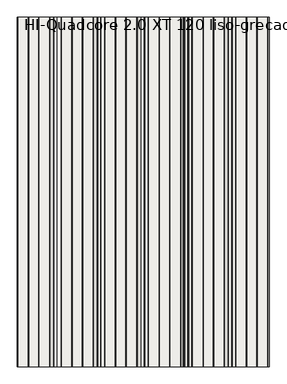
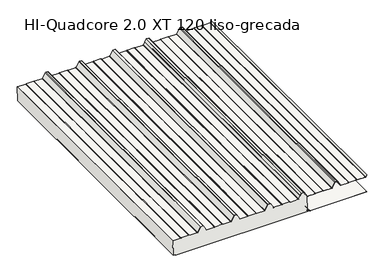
"""IFC4 building model written with IfcOpenShell, lengths in millimetres: slab geometry, HI_QuadCore2.0XT-XT DUAL : HI-Quadcore 2.0 XT 120 liso-grecada."""

from ifc_helpers import new_model, si_unit, point, frame, frame_2d, origin, place, context, project, spatial, polyline, circle_curve, trimmed, segment, composite_curve, outline, extrude, source, transform, mapped, element, save
from ifc_brep_helpers import plane_surface, cylinder_surface, revolved_surface, advanced_brep


def hi_quadcore_2_0_xt_120_liso_grecada_a0ecb60e(model_context):
    return source(origin(), model_context, "Body", "SolidModel", [
        advanced_brep(
        [(2181.036551, 0.0, 121.2667387), (2166.0442453, 0.0, 147.9197266), (2166.033201, 0.0, 145.939301), (2165.1031555, 0.0, 144.3282068), (2164.4103128, 0.0, 144.7281681), (2165.3403583, 0.0, 146.3392623), (2165.3469849, 0.0, 147.5275176), (2159.4120152, 0.0, 158.0785747), (2157.4945491, 0.0, 159.2), (2142.1184247, 0.0, 159.2), (2140.1940602, 0.0, 158.0662182), (2119.7447946, 0.0, 121.1583504), (2116.4208923, 0.0, 119.2), (2057.5510443, 0.0, 119.2), (2055.671532, 0.0, 119.6973596), (2053.5370944, 0.0, 120.912055), (2052.4489557, 0.0, 121.2), (1997.5510443, 0.0, 121.2), (1996.4629056, 0.0, 120.912055), (1994.328468, 0.0, 119.6973596), (1992.4489557, 0.0, 119.2), (1934.2545425, 0.0, 119.2), (1930.9425554, 0.0, 121.1370073), (1910.1629237, 0.0, 158.0785747), (1908.2454575, 0.0, 159.2), (1891.7545425, 0.0, 159.2), (1889.8370763, 0.0, 158.0785747), (1869.0574446, 0.0, 121.1370073), (1865.7454575, 0.0, 119.2), (1807.5510443, 0.0, 119.2), (1805.671532, 0.0, 119.6973596), (1803.5370944, 0.0, 120.912055), (1802.4489557, 0.0, 121.2), (1747.5510443, 0.0, 121.2), (1746.4629056, 0.0, 120.912055), (1744.328468, 0.0, 119.6973596), (1742.4489557, 0.0, 119.2), (1684.2545425, 0.0, 119.2), (1680.9425554, 0.0, 121.1370073), (1660.1629237, 0.0, 158.0785747), (1658.2454575, 0.0, 159.2), (1641.7545425, 0.0, 159.2), (1639.8370763, 0.0, 158.0785747), (1619.0574446, 0.0, 121.1370073), (1615.7454575, 0.0, 119.2), (1557.5510443, 0.0, 119.2), (1555.671532, 0.0, 119.6973596), (1553.5370944, 0.0, 120.912055), (1552.4489557, 0.0, 121.2), (1497.5510443, 0.0, 121.2), (1496.4629056, 0.0, 120.912055), (1494.328468, 0.0, 119.6973596), (1492.4489557, 0.0, 119.2), (1434.2545425, 0.0, 119.2), (1430.9425554, 0.0, 121.1370073), (1410.1629237, 0.0, 158.0785747), (1408.2454575, 0.0, 159.2), (1391.7545425, 0.0, 159.2), (1389.8370763, 0.0, 158.0785747), (1369.0574446, 0.0, 121.1370073), (1365.7454575, 0.0, 119.2), (1307.5510443, 0.0, 119.2), (1305.671532, 0.0, 119.6973596), (1303.5370944, 0.0, 120.912055), (1302.4489557, 0.0, 121.2), (1247.5510443, 0.0, 121.2), (1246.4629056, 0.0, 120.912055), (1244.328468, 0.0, 119.6973596), (1242.4489557, 0.0, 119.2), (1184.6545425, 0.0, 119.2), (1181.3052775, 0.0, 121.2048889), (1184.4622222, 0.0, 7.0308356), (1185.8457731, 0.0, 7.2414508), (1185.8456418, 0.0, 11.9758652), (1186.4313891, 0.0, 13.390095), (1188.5375329, 0.0, 15.4963556), (1189.1032183, 0.0, 14.9306702), (1186.9970902, 0.0, 12.8244253), (1186.6456418, 0.0, 11.9758874), (1186.6457428, 0.0, 8.3337062), (1187.7581044, 0.0, 7.1369439), (1198.1768616, 0.0, 6.3740035), (1200.7032632, 0.0, 3.5874804), (1200.7033079, 0.0, 1.9756233), (1201.9033408, 0.0, 0.7756565), (2197.9136557, 0.0, 0.8032689), (2199.1046782, 0.0, 2.0032686), (2199.104653, 0.0, 2.9118044), (2197.9581323, 0.0, 4.1105786), (2186.1323972, 0.0, 5.0061949), (2183.5438482, 0.0, 7.7981217), (2183.5455151, 0.0, 11.7461321), (2183.1910778, 0.0, 12.5938038), (2181.7779905, 0.0, 14.013532), (2182.3436759, 0.0, 14.5792175), (2183.757913, 0.0, 13.1650588), (1181.3052775, 2000.0, 121.2048889), (1184.6545425, 2000.0, 119.2), (1242.4489557, 2000.0, 119.2), (1244.328468, 2000.0, 119.6973596), (1246.4629056, 2000.0, 120.912055), (1247.5510443, 2000.0, 121.2), (1302.4489557, 2000.0, 121.2), (1303.5370944, 2000.0, 120.912055), (1305.671532, 2000.0, 119.6973596), (1307.5510443, 2000.0, 119.2), (1365.7454575, 2000.0, 119.2), (1369.0574446, 2000.0, 121.1370073), (1389.8370763, 2000.0, 158.0785747), (1391.7545425, 2000.0, 159.2), (1408.2454575, 2000.0, 159.2), (1410.1629237, 2000.0, 158.0785747), (1430.9425554, 2000.0, 121.1370073), (1434.2545425, 2000.0, 119.2), (1492.4489557, 2000.0, 119.2), (1494.328468, 2000.0, 119.6973596), (1496.4629056, 2000.0, 120.912055), (1497.5510443, 2000.0, 121.2), (1552.4489557, 2000.0, 121.2), (1553.5370944, 2000.0, 120.912055), (1555.671532, 2000.0, 119.6973596), (1557.5510443, 2000.0, 119.2), (1615.7454575, 2000.0, 119.2), (1619.0574446, 2000.0, 121.1370073), (1639.8370763, 2000.0, 158.0785747), (1641.7545425, 2000.0, 159.2), (1658.2454575, 2000.0, 159.2), (1660.1629237, 2000.0, 158.0785747), (1680.9425554, 2000.0, 121.1370073), (1684.2545425, 2000.0, 119.2), (1742.4489557, 2000.0, 119.2), (1744.328468, 2000.0, 119.6973596), (1746.4629056, 2000.0, 120.912055), (1747.5510443, 2000.0, 121.2), (1802.4489557, 2000.0, 121.2), (1803.5370944, 2000.0, 120.912055), (1805.671532, 2000.0, 119.6973596), (1807.5510443, 2000.0, 119.2), (1865.7454575, 2000.0, 119.2), (1869.0574446, 2000.0, 121.1370073), (1889.8370763, 2000.0, 158.0785747), (1891.7545425, 2000.0, 159.2), (1908.2454575, 2000.0, 159.2), (1910.1629237, 2000.0, 158.0785747), (1930.9425554, 2000.0, 121.1370073), (1934.2545425, 2000.0, 119.2), (1992.4489557, 2000.0, 119.2), (1994.328468, 2000.0, 119.6973596), (1996.4629056, 2000.0, 120.912055), (1997.5510443, 2000.0, 121.2), (2052.4489557, 2000.0, 121.2), (2053.5370944, 2000.0, 120.912055), (2055.671532, 2000.0, 119.6973596), (2057.5510443, 2000.0, 119.2), (2116.4208923, 2000.0, 119.2), (2119.7447946, 2000.0, 121.1583504), (2140.1940602, 2000.0, 158.0662182), (2142.1184247, 2000.0, 159.2), (2157.4945491, 2000.0, 159.2), (2159.4120152, 2000.0, 158.0785747), (2165.3469849, 2000.0, 147.5275176), (2165.3403583, 2000.0, 146.3392623), (2164.4103128, 2000.0, 144.7281681), (2165.1031555, 2000.0, 144.3282068), (2166.033201, 2000.0, 145.939301), (2166.0442453, 2000.0, 147.9197266), (2181.036551, 2000.0, 121.2667387), (2183.757913, 2000.0, 13.1650588), (2182.3436759, 2000.0, 14.5792175), (2181.7779905, 2000.0, 14.013532), (2183.1910778, 2000.0, 12.5938038), (2183.5455151, 2000.0, 11.7461321), (2183.5438482, 2000.0, 7.7981217), (2186.1323972, 2000.0, 5.0061949), (2197.9581323, 2000.0, 4.1105786), (2199.104653, 2000.0, 2.9118044), (2199.1046782, 2000.0, 2.0032686), (2197.9136557, 2000.0, 0.8032689), (1201.9033408, 2000.0, 0.7756565), (1200.7033079, 2000.0, 1.9756233), (1200.7032632, 2000.0, 3.5874804), (1198.1768616, 2000.0, 6.3740035), (1187.7581044, 2000.0, 7.1369439), (1186.6457428, 2000.0, 8.3337062), (1186.6456418, 2000.0, 11.9758874), (1186.9970902, 2000.0, 12.8244253), (1189.1032183, 2000.0, 14.9306702), (1188.5375329, 2000.0, 15.4963556), (1186.4313891, 2000.0, 13.390095), (1185.8456418, 2000.0, 11.9758652), (1185.8457731, 2000.0, 7.2414508), (1184.4622222, 2000.0, 7.0308356)],
        [
            (0, 1),
            (1, 2, circle_curve(frame((2164.3010942, 0.0, 146.9392041), z_axis=(0.0, 1.0, 0.0), x_axis=(1.0, 0.0, 0.0)), 2.0)),
            (2, 3),
            (3, 4),
            (4, 5),
            (5, 6, circle_curve(frame((2164.3010942, 0.0, 146.9392041), z_axis=(0.0, -1.0, 0.0), x_axis=(1.0, 0.0, 0.0)), 1.2)),
            (6, 7),
            (7, 8, circle_curve(frame((2157.4945491, 0.0, 157.0), z_axis=(0.0, -1.0, 0.0), x_axis=(1.0, 0.0, 0.0)), 2.2)),
            (8, 9),
            (9, 10, circle_curve(frame((2142.1184247, 0.0, 157.0), z_axis=(0.0, -1.0, 0.0), x_axis=(1.0, 0.0, 0.0)), 2.2)),
            (10, 11),
            (11, 12, circle_curve(frame((2116.4208923, 0.0, 123.0), z_axis=(0.0, 1.0, 0.0), x_axis=(1.0, 0.0, 0.0)), 3.8)),
            (12, 13),
            (13, 14, circle_curve(frame((2057.5510443, 0.0, 123.0), z_axis=(0.0, 1.0, 0.0), x_axis=(1.0, 0.0, 0.0)), 3.8)),
            (14, 15),
            (15, 16, circle_curve(frame((2052.4489557, 0.0, 119.0), z_axis=(0.0, -1.0, 0.0), x_axis=(1.0, 0.0, 0.0)), 2.2)),
            (16, 17),
            (17, 18, circle_curve(frame((1997.5510443, 0.0, 119.0), z_axis=(0.0, -1.0, 0.0), x_axis=(1.0, 0.0, 0.0)), 2.2)),
            (18, 19),
            (19, 20, circle_curve(frame((1992.4489557, 0.0, 123.0), z_axis=(0.0, 1.0, 0.0), x_axis=(1.0, 0.0, 0.0)), 3.8)),
            (20, 21),
            (21, 22, circle_curve(frame((1934.2545425, 0.0, 123.0), z_axis=(0.0, 1.0, 0.0), x_axis=(1.0, 0.0, 0.0)), 3.8)),
            (22, 23),
            (23, 24, circle_curve(frame((1908.2454575, 0.0, 157.0), z_axis=(0.0, -1.0, 0.0), x_axis=(1.0, 0.0, 0.0)), 2.2)),
            (24, 25),
            (25, 26, circle_curve(frame((1891.7545425, 0.0, 157.0), z_axis=(0.0, -1.0, 0.0), x_axis=(1.0, 0.0, 0.0)), 2.2)),
            (26, 27),
            (27, 28, circle_curve(frame((1865.7454575, 0.0, 123.0), z_axis=(0.0, 1.0, 0.0), x_axis=(1.0, 0.0, 0.0)), 3.8)),
            (28, 29),
            (29, 30, circle_curve(frame((1807.5510443, 0.0, 123.0), z_axis=(0.0, 1.0, 0.0), x_axis=(1.0, 0.0, 0.0)), 3.8)),
            (30, 31),
            (31, 32, circle_curve(frame((1802.4489557, 0.0, 119.0), z_axis=(0.0, -1.0, 0.0), x_axis=(1.0, 0.0, 0.0)), 2.2)),
            (32, 33),
            (33, 34, circle_curve(frame((1747.5510443, 0.0, 119.0), z_axis=(0.0, -1.0, 0.0), x_axis=(1.0, 0.0, 0.0)), 2.2)),
            (34, 35),
            (35, 36, circle_curve(frame((1742.4489557, 0.0, 123.0), z_axis=(0.0, 1.0, 0.0), x_axis=(1.0, 0.0, 0.0)), 3.8)),
            (36, 37),
            (37, 38, circle_curve(frame((1684.2545425, 0.0, 123.0), z_axis=(0.0, 1.0, 0.0), x_axis=(1.0, 0.0, 0.0)), 3.8)),
            (38, 39),
            (39, 40, circle_curve(frame((1658.2454575, 0.0, 157.0), z_axis=(0.0, -1.0, 0.0), x_axis=(1.0, 0.0, 0.0)), 2.2)),
            (40, 41),
            (41, 42, circle_curve(frame((1641.7545425, 0.0, 157.0), z_axis=(0.0, -1.0, 0.0), x_axis=(1.0, 0.0, 0.0)), 2.2)),
            (42, 43),
            (43, 44, circle_curve(frame((1615.7454575, 0.0, 123.0), z_axis=(0.0, 1.0, 0.0), x_axis=(1.0, 0.0, 0.0)), 3.8)),
            (44, 45),
            (45, 46, circle_curve(frame((1557.5510443, 0.0, 123.0), z_axis=(0.0, 1.0, 0.0), x_axis=(1.0, 0.0, 0.0)), 3.8)),
            (46, 47),
            (47, 48, circle_curve(frame((1552.4489557, 0.0, 119.0), z_axis=(0.0, -1.0, 0.0), x_axis=(1.0, 0.0, 0.0)), 2.2)),
            (48, 49),
            (49, 50, circle_curve(frame((1497.5510443, 0.0, 119.0), z_axis=(0.0, -1.0, 0.0), x_axis=(1.0, 0.0, 0.0)), 2.2)),
            (50, 51),
            (51, 52, circle_curve(frame((1492.4489557, 0.0, 123.0), z_axis=(0.0, 1.0, 0.0), x_axis=(1.0, 0.0, 0.0)), 3.8)),
            (52, 53),
            (53, 54, circle_curve(frame((1434.2545425, 0.0, 123.0), z_axis=(0.0, 1.0, 0.0), x_axis=(1.0, 0.0, 0.0)), 3.8)),
            (54, 55),
            (55, 56, circle_curve(frame((1408.2454575, 0.0, 157.0), z_axis=(0.0, -1.0, 0.0), x_axis=(1.0, 0.0, 0.0)), 2.2)),
            (56, 57),
            (57, 58, circle_curve(frame((1391.7545425, 0.0, 157.0), z_axis=(0.0, -1.0, 0.0), x_axis=(1.0, 0.0, 0.0)), 2.2)),
            (58, 59),
            (59, 60, circle_curve(frame((1365.7454575, 0.0, 123.0), z_axis=(0.0, 1.0, 0.0), x_axis=(1.0, 0.0, 0.0)), 3.8)),
            (60, 61),
            (61, 62, circle_curve(frame((1307.5510443, 0.0, 123.0), z_axis=(0.0, 1.0, 0.0), x_axis=(1.0, 0.0, 0.0)), 3.8)),
            (62, 63),
            (63, 64, circle_curve(frame((1302.4489557, 0.0, 119.0), z_axis=(0.0, -1.0, 0.0), x_axis=(1.0, 0.0, 0.0)), 2.2)),
            (64, 65),
            (65, 66, circle_curve(frame((1247.5510443, 0.0, 119.0), z_axis=(0.0, -1.0, 0.0), x_axis=(1.0, 0.0, 0.0)), 2.2)),
            (66, 67),
            (67, 68, circle_curve(frame((1242.4489557, 0.0, 123.0), z_axis=(0.0, 1.0, 0.0), x_axis=(1.0, 0.0, 0.0)), 3.8)),
            (68, 69),
            (69, 70, circle_curve(frame((1184.6545425, 0.0, 123.0), z_axis=(0.0, 1.0, 0.0), x_axis=(1.0, 0.0, 0.0)), 3.8)),
            (70, 71),
            (71, 72),
            (72, 73),
            (73, 74, circle_curve(frame((1187.8456418, 0.0, 11.9759207), z_axis=(0.0, 1.0, 0.0), x_axis=(1.0, 0.0, 0.0)), 2.0)),
            (74, 75),
            (75, 76),
            (76, 77),
            (77, 78, circle_curve(frame((1187.8456418, 0.0, 11.9759207), z_axis=(0.0, -1.0, 0.0), x_axis=(1.0, 0.0, 0.0)), 1.2)),
            (78, 79),
            (79, 80, circle_curve(frame((1187.8457428, 0.0, 8.3337394), z_axis=(0.0, -1.0, 0.0), x_axis=(1.0, 0.0, 0.0)), 1.2)),
            (80, 81),
            (81, 82, circle_curve(frame((1197.9032632, 0.0, 3.5874027), z_axis=(0.0, 1.0, 0.0), x_axis=(1.0, 0.0, 0.0)), 2.8)),
            (82, 83),
            (83, 84, circle_curve(frame((1201.9033076, 0.0, 1.9756562), z_axis=(0.0, -1.0, 0.0), x_axis=(1.0, 0.0, 0.0)), 1.1999997)),
            (84, 85),
            (85, 86, circle_curve(frame((2197.9046782, 0.0, 2.0032353), z_axis=(0.0, -1.0, 0.0), x_axis=(1.0, 0.0, 0.0)), 1.2)),
            (86, 87),
            (87, 88, circle_curve(frame((2197.9046533, 0.0, 2.9117711), z_axis=(0.0, -1.0, 0.0), x_axis=(1.0, 0.0, 0.0)), 1.1999997)),
            (88, 89),
            (89, 90, circle_curve(frame((2186.3438482, 0.0, 7.7981993), z_axis=(0.0, 1.0, 0.0), x_axis=(1.0, 0.0, 0.0)), 2.8)),
            (90, 91),
            (91, 92, circle_curve(frame((2182.3429645, 0.0, 11.7412455), z_axis=(0.0, -1.0, 0.0), x_axis=(1.0, 0.0, 0.0)), 1.2025605)),
            (92, 93),
            (93, 94),
            (94, 95),
            (95, 0),
            (96, 97, circle_curve(frame((1184.6545425, 2000.0, 123.0), z_axis=(0.0, -1.0, 0.0), x_axis=(1.0, 0.0, 0.0)), 3.8)),
            (97, 98),
            (98, 99, circle_curve(frame((1242.4489557, 2000.0, 123.0), z_axis=(0.0, -1.0, 0.0), x_axis=(1.0, 0.0, 0.0)), 3.8)),
            (99, 100),
            (100, 101, circle_curve(frame((1247.5510443, 2000.0, 119.0), z_axis=(0.0, 1.0, 0.0), x_axis=(1.0, 0.0, 0.0)), 2.2)),
            (101, 102),
            (102, 103, circle_curve(frame((1302.4489557, 2000.0, 119.0), z_axis=(0.0, 1.0, 0.0), x_axis=(1.0, 0.0, 0.0)), 2.2)),
            (103, 104),
            (104, 105, circle_curve(frame((1307.5510443, 2000.0, 123.0), z_axis=(0.0, -1.0, 0.0), x_axis=(1.0, 0.0, 0.0)), 3.8)),
            (105, 106),
            (106, 107, circle_curve(frame((1365.7454575, 2000.0, 123.0), z_axis=(0.0, -1.0, 0.0), x_axis=(1.0, 0.0, 0.0)), 3.8)),
            (107, 108),
            (108, 109, circle_curve(frame((1391.7545425, 2000.0, 157.0), z_axis=(0.0, 1.0, 0.0), x_axis=(1.0, 0.0, 0.0)), 2.2)),
            (109, 110),
            (110, 111, circle_curve(frame((1408.2454575, 2000.0, 157.0), z_axis=(0.0, 1.0, 0.0), x_axis=(1.0, 0.0, 0.0)), 2.2)),
            (111, 112),
            (112, 113, circle_curve(frame((1434.2545425, 2000.0, 123.0), z_axis=(0.0, -1.0, 0.0), x_axis=(1.0, 0.0, 0.0)), 3.8)),
            (113, 114),
            (114, 115, circle_curve(frame((1492.4489557, 2000.0, 123.0), z_axis=(0.0, -1.0, 0.0), x_axis=(1.0, 0.0, 0.0)), 3.8)),
            (115, 116),
            (116, 117, circle_curve(frame((1497.5510443, 2000.0, 119.0), z_axis=(0.0, 1.0, 0.0), x_axis=(1.0, 0.0, 0.0)), 2.2)),
            (117, 118),
            (118, 119, circle_curve(frame((1552.4489557, 2000.0, 119.0), z_axis=(0.0, 1.0, 0.0), x_axis=(1.0, 0.0, 0.0)), 2.2)),
            (119, 120),
            (120, 121, circle_curve(frame((1557.5510443, 2000.0, 123.0), z_axis=(0.0, -1.0, 0.0), x_axis=(1.0, 0.0, 0.0)), 3.8)),
            (121, 122),
            (122, 123, circle_curve(frame((1615.7454575, 2000.0, 123.0), z_axis=(0.0, -1.0, 0.0), x_axis=(1.0, 0.0, 0.0)), 3.8)),
            (123, 124),
            (124, 125, circle_curve(frame((1641.7545425, 2000.0, 157.0), z_axis=(0.0, 1.0, 0.0), x_axis=(1.0, 0.0, 0.0)), 2.2)),
            (125, 126),
            (126, 127, circle_curve(frame((1658.2454575, 2000.0, 157.0), z_axis=(0.0, 1.0, 0.0), x_axis=(1.0, 0.0, 0.0)), 2.2)),
            (127, 128),
            (128, 129, circle_curve(frame((1684.2545425, 2000.0, 123.0), z_axis=(0.0, -1.0, 0.0), x_axis=(1.0, 0.0, 0.0)), 3.8)),
            (129, 130),
            (130, 131, circle_curve(frame((1742.4489557, 2000.0, 123.0), z_axis=(0.0, -1.0, 0.0), x_axis=(1.0, 0.0, 0.0)), 3.8)),
            (131, 132),
            (132, 133, circle_curve(frame((1747.5510443, 2000.0, 119.0), z_axis=(0.0, 1.0, 0.0), x_axis=(1.0, 0.0, 0.0)), 2.2)),
            (133, 134),
            (134, 135, circle_curve(frame((1802.4489557, 2000.0, 119.0), z_axis=(0.0, 1.0, 0.0), x_axis=(1.0, 0.0, 0.0)), 2.2)),
            (135, 136),
            (136, 137, circle_curve(frame((1807.5510443, 2000.0, 123.0), z_axis=(0.0, -1.0, 0.0), x_axis=(1.0, 0.0, 0.0)), 3.8)),
            (137, 138),
            (138, 139, circle_curve(frame((1865.7454575, 2000.0, 123.0), z_axis=(0.0, -1.0, 0.0), x_axis=(1.0, 0.0, 0.0)), 3.8)),
            (139, 140),
            (140, 141, circle_curve(frame((1891.7545425, 2000.0, 157.0), z_axis=(0.0, 1.0, 0.0), x_axis=(1.0, 0.0, 0.0)), 2.2)),
            (141, 142),
            (142, 143, circle_curve(frame((1908.2454575, 2000.0, 157.0), z_axis=(0.0, 1.0, 0.0), x_axis=(1.0, 0.0, 0.0)), 2.2)),
            (143, 144),
            (144, 145, circle_curve(frame((1934.2545425, 2000.0, 123.0), z_axis=(0.0, -1.0, 0.0), x_axis=(1.0, 0.0, 0.0)), 3.8)),
            (145, 146),
            (146, 147, circle_curve(frame((1992.4489557, 2000.0, 123.0), z_axis=(0.0, -1.0, 0.0), x_axis=(1.0, 0.0, 0.0)), 3.8)),
            (147, 148),
            (148, 149, circle_curve(frame((1997.5510443, 2000.0, 119.0), z_axis=(0.0, 1.0, 0.0), x_axis=(1.0, 0.0, 0.0)), 2.2)),
            (149, 150),
            (150, 151, circle_curve(frame((2052.4489557, 2000.0, 119.0), z_axis=(0.0, 1.0, 0.0), x_axis=(1.0, 0.0, 0.0)), 2.2)),
            (151, 152),
            (152, 153, circle_curve(frame((2057.5510443, 2000.0, 123.0), z_axis=(0.0, -1.0, 0.0), x_axis=(1.0, 0.0, 0.0)), 3.8)),
            (153, 154),
            (154, 155, circle_curve(frame((2116.4208923, 2000.0, 123.0), z_axis=(0.0, -1.0, 0.0), x_axis=(1.0, 0.0, 0.0)), 3.8)),
            (155, 156),
            (156, 157, circle_curve(frame((2142.1184247, 2000.0, 157.0), z_axis=(0.0, 1.0, 0.0), x_axis=(1.0, 0.0, 0.0)), 2.2)),
            (157, 158),
            (158, 159, circle_curve(frame((2157.4945491, 2000.0, 157.0), z_axis=(0.0, 1.0, 0.0), x_axis=(1.0, 0.0, 0.0)), 2.2)),
            (159, 160),
            (160, 161, circle_curve(frame((2164.3010942, 2000.0, 146.9392041), z_axis=(0.0, 1.0, 0.0), x_axis=(1.0, 0.0, 0.0)), 1.2)),
            (161, 162),
            (162, 163),
            (163, 164),
            (164, 165, circle_curve(frame((2164.3010942, 2000.0, 146.9392041), z_axis=(0.0, -1.0, 0.0), x_axis=(1.0, 0.0, 0.0)), 2.0)),
            (165, 166),
            (166, 167),
            (167, 168),
            (168, 169),
            (169, 170),
            (170, 171, circle_curve(frame((2182.3429645, 2000.0, 11.7412455), z_axis=(0.0, 1.0, 0.0), x_axis=(1.0, 0.0, 0.0)), 1.2025605)),
            (171, 172),
            (172, 173, circle_curve(frame((2186.3438482, 2000.0, 7.7981993), z_axis=(0.0, -1.0, 0.0), x_axis=(1.0, 0.0, 0.0)), 2.8)),
            (173, 174),
            (174, 175, circle_curve(frame((2197.9046533, 2000.0, 2.9117711), z_axis=(0.0, 1.0, 0.0), x_axis=(1.0, 0.0, 0.0)), 1.1999997)),
            (175, 176),
            (176, 177, circle_curve(frame((2197.9046782, 2000.0, 2.0032353), z_axis=(0.0, 1.0, 0.0), x_axis=(1.0, 0.0, 0.0)), 1.2)),
            (177, 178),
            (178, 179, circle_curve(frame((1201.9033076, 2000.0, 1.9756562), z_axis=(0.0, 1.0, 0.0), x_axis=(1.0, 0.0, 0.0)), 1.1999997)),
            (179, 180),
            (180, 181, circle_curve(frame((1197.9032632, 2000.0, 3.5874027), z_axis=(0.0, -1.0, 0.0), x_axis=(1.0, 0.0, 0.0)), 2.8)),
            (181, 182),
            (182, 183, circle_curve(frame((1187.8457428, 2000.0, 8.3337394), z_axis=(0.0, 1.0, 0.0), x_axis=(1.0, 0.0, 0.0)), 1.2)),
            (183, 184),
            (184, 185, circle_curve(frame((1187.8456418, 2000.0, 11.9759207), z_axis=(0.0, 1.0, 0.0), x_axis=(1.0, 0.0, 0.0)), 1.2)),
            (185, 186),
            (186, 187),
            (187, 188),
            (188, 189, circle_curve(frame((1187.8456418, 2000.0, 11.9759207), z_axis=(0.0, -1.0, 0.0), x_axis=(1.0, 0.0, 0.0)), 2.0)),
            (189, 190),
            (190, 191),
            (191, 96),
            (0, 166),
            (165, 1),
            (164, 2),
            (163, 3),
            (162, 4),
            (161, 5),
            (160, 6),
            (159, 7),
            (158, 8),
            (157, 9),
            (156, 10),
            (155, 11),
            (154, 12),
            (153, 13),
            (152, 14),
            (151, 15),
            (150, 16),
            (149, 17),
            (148, 18),
            (147, 19),
            (146, 20),
            (145, 21),
            (144, 22),
            (143, 23),
            (142, 24),
            (141, 25),
            (140, 26),
            (139, 27),
            (138, 28),
            (137, 29),
            (136, 30),
            (135, 31),
            (134, 32),
            (133, 33),
            (132, 34),
            (131, 35),
            (130, 36),
            (129, 37),
            (128, 38),
            (127, 39),
            (126, 40),
            (125, 41),
            (124, 42),
            (123, 43),
            (122, 44),
            (121, 45),
            (120, 46),
            (119, 47),
            (118, 48),
            (117, 49),
            (116, 50),
            (115, 51),
            (114, 52),
            (113, 53),
            (112, 54),
            (111, 55),
            (110, 56),
            (109, 57),
            (108, 58),
            (107, 59),
            (106, 60),
            (105, 61),
            (104, 62),
            (103, 63),
            (102, 64),
            (101, 65),
            (100, 66),
            (99, 67),
            (98, 68),
            (97, 69),
            (96, 70),
            (191, 71),
            (95, 167),
            (76, 186),
            (185, 77),
            (184, 78),
            (183, 79),
            (182, 80),
            (181, 81),
            (180, 82),
            (179, 83),
            (86, 176),
            (175, 87),
            (174, 88),
            (173, 89),
            (172, 90),
            (171, 91),
            (75, 187),
            (72, 190),
            (189, 73),
            (188, 74),
            (170, 92),
            (169, 93),
            (168, 94),
            (178, 84),
            (177, 85),
        ],
        [
            plane_surface(frame((2181.1187881, 0.0, 118.0), z_axis=(0.0, -1.0, 0.0), x_axis=(1.0, 0.0, 0.0))),
            plane_surface(frame((2181.1187881, 2000.0, 118.0), z_axis=(0.0, 1.0, 0.0), x_axis=(-1.0, 0.0, 0.0))),
            plane_surface(frame((2181.036551, 0.0, 121.2667387), z_axis=(0.8715755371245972, 0.0, 0.4902612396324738), x_axis=(0.0, 1.0, 0.0))),
            revolved_surface(polyline([(2166.3010942, 2000.0, 146.9392041), (2166.3010942, 0.0, 146.9392041)]), (2164.3010942, 2000.0, 146.9392041), (0.0, 1.0, 0.0)),
            plane_surface(frame((2166.033201, 0.0, 145.939301), z_axis=(-0.8660533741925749, 0.0, 0.49995155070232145), x_axis=(0.0, 1.0, 0.0))),
            plane_surface(frame((2165.1031555, 0.0, 144.3282068), z_axis=(0.4999515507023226, 0.0, 0.8660533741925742), x_axis=(0.0, 1.0, 0.0))),
            plane_surface(frame((2164.4103128, 0.0, 144.7281681), z_axis=(0.8660533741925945, 0.0, -0.4999515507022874), x_axis=(0.0, 1.0, 0.0))),
            cylinder_surface(frame((2164.3010942, 2000.0, 146.9392041), z_axis=(0.0, -1.0, 0.0), x_axis=(1.0, 0.0, 0.0)), 1.2),
            plane_surface(frame((2165.3469849, 0.0, 147.5275176), z_axis=(0.8715755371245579, 0.0, 0.4902612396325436), x_axis=(0.0, 1.0, 0.0))),
            cylinder_surface(frame((2157.4945491, 2000.0, 157.0), z_axis=(0.0, -1.0, 0.0), x_axis=(1.0, 0.0, 0.0)), 2.2),
            plane_surface(frame((2157.4945491, 0.0, 159.2), z_axis=(0.0, 0.0, 1.0), x_axis=(0.0, 1.0, 0.0))),
            cylinder_surface(frame((2142.1184247, 2000.0, 157.0), z_axis=(0.0, -1.0, 0.0), x_axis=(1.0, 0.0, 0.0)), 2.2),
            plane_surface(frame((2140.1940602, 0.0, 158.0662182), z_axis=(-0.8747111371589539, 0.0, 0.48464463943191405), x_axis=(0.0, 1.0, 0.0))),
            revolved_surface(polyline([(2120.2208923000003, 2000.0, 123.0), (2120.2208923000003, 0.0, 123.0)]), (2116.4208923, 2000.0, 123.0), (0.0, 1.0, 0.0)),
            plane_surface(frame((2116.4208923, 0.0, 119.2), z_axis=(0.0, 0.0, 1.0), x_axis=(0.0, 1.0, 0.0))),
            revolved_surface(polyline([(2061.3510443, 2000.0, 123.0), (2061.3510443, 0.0, 123.0)]), (2057.5510443, 2000.0, 123.0), (0.0, 1.0, 0.0)),
            plane_surface(frame((2055.671532, 0.0, 119.6973596), z_axis=(0.49460850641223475, 0.0, 0.8691158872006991), x_axis=(0.0, 1.0, 0.0))),
            cylinder_surface(frame((2052.4489557, 2000.0, 119.0), z_axis=(0.0, -1.0, 0.0), x_axis=(1.0, 0.0, 0.0)), 2.2),
            plane_surface(frame((2052.4489557, 0.0, 121.2), z_axis=(0.0, 0.0, 1.0), x_axis=(0.0, 1.0, 0.0))),
            cylinder_surface(frame((1997.5510443, 2000.0, 119.0), z_axis=(0.0, -1.0, 0.0), x_axis=(1.0, 0.0, 0.0)), 2.2),
            plane_surface(frame((1996.4629056, 0.0, 120.912055), z_axis=(-0.49460850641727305, 0.0, 0.8691158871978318), x_axis=(0.0, 1.0, 0.0))),
            revolved_surface(polyline([(1996.2489557, 2000.0, 123.0), (1996.2489557, 0.0, 123.0)]), (1992.4489557, 2000.0, 123.0), (0.0, 1.0, 0.0)),
            plane_surface(frame((1992.4489557, 0.0, 119.2), z_axis=(0.0, 0.0, 1.0), x_axis=(0.0, 1.0, 0.0))),
            revolved_surface(polyline([(1938.0545425, 2000.0, 123.0), (1938.0545425, 0.0, 123.0)]), (1934.2545425, 2000.0, 123.0), (0.0, 1.0, 0.0)),
            plane_surface(frame((1930.9425554, 0.0, 121.1370073), z_axis=(0.8715755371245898, 0.0, 0.4902612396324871), x_axis=(0.0, 1.0, 0.0))),
            cylinder_surface(frame((1908.2454575, 2000.0, 157.0), z_axis=(0.0, -1.0, 0.0), x_axis=(1.0, 0.0, 0.0)), 2.2),
            plane_surface(frame((1908.2454575, 0.0, 159.2), z_axis=(0.0, 0.0, 1.0), x_axis=(0.0, 1.0, 0.0))),
            cylinder_surface(frame((1891.7545425, 2000.0, 157.0), z_axis=(0.0, -1.0, 0.0), x_axis=(1.0, 0.0, 0.0)), 2.2),
            plane_surface(frame((1889.8370763, 0.0, 158.0785747), z_axis=(-0.8715755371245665, 0.0, 0.49026123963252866), x_axis=(0.0, 1.0, 0.0))),
            revolved_surface(polyline([(1869.5454574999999, 2000.0, 123.0), (1869.5454574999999, 0.0, 123.0)]), (1865.7454575, 2000.0, 123.0), (0.0, 1.0, 0.0)),
            plane_surface(frame((1865.7454575, 0.0, 119.2), z_axis=(0.0, 0.0, 1.0), x_axis=(0.0, 1.0, 0.0))),
            revolved_surface(polyline([(1811.3510443, 2000.0, 123.0), (1811.3510443, 0.0, 123.0)]), (1807.5510443, 2000.0, 123.0), (0.0, 1.0, 0.0)),
            plane_surface(frame((1805.671532, 0.0, 119.6973596), z_axis=(0.49460850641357, 0.0, 0.8691158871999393), x_axis=(0.0, 1.0, 0.0))),
            cylinder_surface(frame((1802.4489557, 2000.0, 119.0), z_axis=(0.0, -1.0, 0.0), x_axis=(1.0, 0.0, 0.0)), 2.2),
            plane_surface(frame((1802.4489557, 0.0, 121.2), z_axis=(0.0, 0.0, 1.0), x_axis=(0.0, 1.0, 0.0))),
            cylinder_surface(frame((1747.5510443, 2000.0, 119.0), z_axis=(0.0, -1.0, 0.0), x_axis=(1.0, 0.0, 0.0)), 2.2),
            plane_surface(frame((1746.4629056, 0.0, 120.912055), z_axis=(-0.4946085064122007, 0.0, 0.8691158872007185), x_axis=(0.0, 1.0, 0.0))),
            revolved_surface(polyline([(1746.2489557, 2000.0, 123.0), (1746.2489557, 0.0, 123.0)]), (1742.4489557, 2000.0, 123.0), (0.0, 1.0, 0.0)),
            plane_surface(frame((1742.4489557, 0.0, 119.2), z_axis=(0.0, 0.0, 1.0), x_axis=(0.0, 1.0, 0.0))),
            revolved_surface(polyline([(1688.0545425, 2000.0, 123.0), (1688.0545425, 0.0, 123.0)]), (1684.2545425, 2000.0, 123.0), (0.0, 1.0, 0.0)),
            plane_surface(frame((1680.9425554, 0.0, 121.1370073), z_axis=(0.8715755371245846, 0.0, 0.49026123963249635), x_axis=(0.0, 1.0, 0.0))),
            cylinder_surface(frame((1658.2454575, 2000.0, 157.0), z_axis=(0.0, -1.0, 0.0), x_axis=(1.0, 0.0, 0.0)), 2.2),
            plane_surface(frame((1658.2454575, 0.0, 159.2), z_axis=(0.0, 0.0, 1.0), x_axis=(0.0, 1.0, 0.0))),
            cylinder_surface(frame((1641.7545425, 2000.0, 157.0), z_axis=(0.0, -1.0, 0.0), x_axis=(1.0, 0.0, 0.0)), 2.2),
            plane_surface(frame((1639.8370763, 0.0, 158.0785747), z_axis=(-0.8715755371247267, 0.0, 0.49026123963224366), x_axis=(0.0, 1.0, 0.0))),
            revolved_surface(polyline([(1619.5454574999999, 2000.0, 123.0), (1619.5454574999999, 0.0, 123.0)]), (1615.7454575, 2000.0, 123.0), (0.0, 1.0, 0.0)),
            plane_surface(frame((1615.7454575, 0.0, 119.2), z_axis=(0.0, 0.0, 1.0), x_axis=(0.0, 1.0, 0.0))),
            revolved_surface(polyline([(1561.3510443, 2000.0, 123.0), (1561.3510443, 0.0, 123.0)]), (1557.5510443, 2000.0, 123.0), (0.0, 1.0, 0.0)),
            plane_surface(frame((1555.671532, 0.0, 119.6973596), z_axis=(0.49460850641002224, 0.0, 0.8691158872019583), x_axis=(0.0, 1.0, 0.0))),
            cylinder_surface(frame((1552.4489557, 2000.0, 119.0), z_axis=(0.0, -1.0, 0.0), x_axis=(1.0, 0.0, 0.0)), 2.2),
            plane_surface(frame((1552.4489557, 0.0, 121.2), z_axis=(0.0, 0.0, 1.0), x_axis=(0.0, 1.0, 0.0))),
            cylinder_surface(frame((1497.5510443, 2000.0, 119.0), z_axis=(0.0, -1.0, 0.0), x_axis=(1.0, 0.0, 0.0)), 2.2),
            plane_surface(frame((1496.4629056, 0.0, 120.912055), z_axis=(-0.4946085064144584, 0.0, 0.8691158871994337), x_axis=(0.0, 1.0, 0.0))),
            revolved_surface(polyline([(1496.2489557, 2000.0, 123.0), (1496.2489557, 0.0, 123.0)]), (1492.4489557, 2000.0, 123.0), (0.0, 1.0, 0.0)),
            plane_surface(frame((1492.4489557, 0.0, 119.2), z_axis=(0.0, 0.0, 1.0), x_axis=(0.0, 1.0, 0.0))),
            revolved_surface(polyline([(1438.0545425, 2000.0, 123.0), (1438.0545425, 0.0, 123.0)]), (1434.2545425, 2000.0, 123.0), (0.0, 1.0, 0.0)),
            plane_surface(frame((1430.9425554, 0.0, 121.1370073), z_axis=(0.8715755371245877, 0.0, 0.49026123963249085), x_axis=(0.0, 1.0, 0.0))),
            cylinder_surface(frame((1408.2454575, 2000.0, 157.0), z_axis=(0.0, -1.0, 0.0), x_axis=(1.0, 0.0, 0.0)), 2.2),
            plane_surface(frame((1408.2454575, 0.0, 159.2), z_axis=(0.0, 0.0, 1.0), x_axis=(0.0, 1.0, 0.0))),
            cylinder_surface(frame((1391.7545425, 2000.0, 157.0), z_axis=(0.0, -1.0, 0.0), x_axis=(1.0, 0.0, 0.0)), 2.2),
            plane_surface(frame((1389.8370763, 0.0, 158.0785747), z_axis=(-0.8715755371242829, 0.0, 0.49026123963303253), x_axis=(0.0, 1.0, 0.0))),
            revolved_surface(polyline([(1369.5454574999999, 2000.0, 123.0), (1369.5454574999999, 0.0, 123.0)]), (1365.7454575, 2000.0, 123.0), (0.0, 1.0, 0.0)),
            plane_surface(frame((1365.7454575, 0.0, 119.2), z_axis=(0.0, 0.0, 1.0), x_axis=(0.0, 1.0, 0.0))),
            revolved_surface(polyline([(1311.3510443, 2000.0, 123.0), (1311.3510443, 0.0, 123.0)]), (1307.5510443, 2000.0, 123.0), (0.0, 1.0, 0.0)),
            plane_surface(frame((1305.671532, 0.0, 119.6973596), z_axis=(0.4946085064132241, 0.0, 0.8691158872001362), x_axis=(0.0, 1.0, 0.0))),
            cylinder_surface(frame((1302.4489557, 2000.0, 119.0), z_axis=(0.0, -1.0, 0.0), x_axis=(1.0, 0.0, 0.0)), 2.2),
            plane_surface(frame((1302.4489557, 0.0, 121.2), z_axis=(0.0, 0.0, 1.0), x_axis=(0.0, 1.0, 0.0))),
            cylinder_surface(frame((1247.5510443, 2000.0, 119.0), z_axis=(0.0, -1.0, 0.0), x_axis=(1.0, 0.0, 0.0)), 2.2),
            plane_surface(frame((1246.4629056, 0.0, 120.912055), z_axis=(-0.49460850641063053, 0.0, 0.8691158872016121), x_axis=(0.0, 1.0, 0.0))),
            revolved_surface(polyline([(1246.2489557, 2000.0, 123.0), (1246.2489557, 0.0, 123.0)]), (1242.4489557, 2000.0, 123.0), (0.0, 1.0, 0.0)),
            plane_surface(frame((1242.4489557, 0.0, 119.2), z_axis=(0.0, 0.0, 1.0), x_axis=(0.0, 1.0, 0.0))),
            revolved_surface(polyline([(1188.4545425, 2000.0, 123.0), (1188.4545425, 0.0, 123.0)]), (1184.6545425, 2000.0, 123.0), (0.0, 1.0, 0.0)),
            plane_surface(frame((1181.3052775, 0.0, 121.2048889), z_axis=(-0.9996179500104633, 0.0, -0.027639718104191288), x_axis=(0.0, 1.0, 0.0))),
            plane_surface(frame((2181.1187881, 0.0, 118.0), z_axis=(0.9996832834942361, 0.0, 0.02516610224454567), x_axis=(0.0, 1.0, 0.0))),
            plane_surface(frame((1189.1032183, 0.0, 14.9306702), z_axis=(-0.7071263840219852, 0.0, 0.7070871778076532), x_axis=(0.0, 1.0, 0.0))),
            cylinder_surface(frame((1187.8456418, 2000.0, 11.9759207), z_axis=(0.0, -1.0, 0.0), x_axis=(1.0, 0.0, 0.0)), 1.2),
            plane_surface(frame((1186.6456418, 0.0, 11.9758874), z_axis=(-0.9999999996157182, 0.0, -2.772298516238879e-05), x_axis=(0.0, 1.0, 0.0))),
            cylinder_surface(frame((1187.8457428, 2000.0, 8.3337394), z_axis=(0.0, -1.0, 0.0), x_axis=(1.0, 0.0, 0.0)), 1.2),
            plane_surface(frame((1187.7581044, 0.0, 7.1369439), z_axis=(-0.07303203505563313, 0.0, -0.9973295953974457), x_axis=(0.0, 1.0, 0.0))),
            revolved_surface(polyline([(1200.7032632, 2000.0, 3.5874027), (1200.7032632, 0.0, 3.5874027)]), (1197.9032632, 2000.0, 3.5874027), (0.0, 1.0, 0.0)),
            plane_surface(frame((1200.7032632, 0.0, 3.5874804), z_axis=(-0.9999999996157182, 0.0, -2.7722983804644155e-05), x_axis=(0.0, 1.0, 0.0))),
            plane_surface(frame((2199.1046782, 0.0, 2.0032686), z_axis=(0.9999999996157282, 0.0, 2.77226229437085e-05), x_axis=(0.0, 1.0, 0.0))),
            cylinder_surface(frame((2197.9046533, 2000.0, 2.9117711), z_axis=(0.0, -1.0, 0.0), x_axis=(1.0, 0.0, 0.0)), 1.1999997),
            plane_surface(frame((2197.9581323, 0.0, 4.1105786), z_axis=(0.0755182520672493, 0.0, 0.9971444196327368), x_axis=(0.0, 1.0, 0.0))),
            revolved_surface(polyline([(2189.1438482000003, 2000.0, 7.7981993), (2189.1438482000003, 0.0, 7.7981993)]), (2186.3438482, 2000.0, 7.7981993), (0.0, 1.0, 0.0)),
            plane_surface(frame((2183.5438482, 0.0, 7.7981217), z_axis=(0.9999999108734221, 0.0, -0.00042220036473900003), x_axis=(0.0, 1.0, 0.0))),
            plane_surface(frame((1188.5375329, 0.0, 15.4963556), z_axis=(-0.7071067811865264, 0.0, -0.7071067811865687), x_axis=(0.0, 1.0, 0.0))),
            plane_surface(frame((1185.8457731, 0.0, 7.2414508), z_axis=(0.9999999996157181, 0.0, 2.7722985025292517e-05), x_axis=(0.0, 1.0, 0.0))),
            revolved_surface(polyline([(1189.8456418, 2000.0, 11.9759207), (1189.8456418, 0.0, 11.9759207)]), (1187.8456418, 2000.0, 11.9759207), (0.0, 1.0, 0.0)),
            plane_surface(frame((1186.4313891, 0.0, 13.390095), z_axis=(0.7071263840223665, 0.0, -0.707087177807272), x_axis=(0.0, 1.0, 0.0))),
            plane_surface(frame((1184.4622222, 0.0, 7.0308356), z_axis=(0.15049424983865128, 0.0, -0.9886108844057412), x_axis=(0.0, 1.0, 0.0))),
            cylinder_surface(frame((2182.3429645, 2000.0, 11.7412455), z_axis=(0.0, -1.0, 0.0), x_axis=(1.0, 0.0, 0.0)), 1.2025605),
            plane_surface(frame((2183.1910778, 0.0, 12.5938038), z_axis=(0.7087624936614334, 0.0, 0.7054471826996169), x_axis=(0.0, 1.0, 0.0))),
            plane_surface(frame((2181.7779905, 0.0, 14.013532), z_axis=(0.7071067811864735, 0.0, -0.7071067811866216), x_axis=(0.0, 1.0, 0.0))),
            plane_surface(frame((2182.3436759, 0.0, 14.5792175), z_axis=(-0.7070871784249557, 0.0, -0.7071263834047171), x_axis=(0.0, 1.0, 0.0))),
            cylinder_surface(frame((1201.9033076, 2000.0, 1.9756562), z_axis=(0.0, -1.0, 0.0), x_axis=(1.0, 0.0, 0.0)), 1.1999997),
            plane_surface(frame((1201.9033408, 0.0, 0.7756565), z_axis=(2.7722985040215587e-05, 0.0, -0.9999999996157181), x_axis=(0.0, 1.0, 0.0))),
            cylinder_surface(frame((2197.9046782, 2000.0, 2.0032353), z_axis=(0.0, -1.0, 0.0), x_axis=(1.0, 0.0, 0.0)), 1.2),
        ],
        [
            (0, [[1, 2, 3, 4, 5, 6, 7, 8, 9, 10, 11, 12, 13, 14, 15, 16, 17, 18, 19, 20, 21, 22, 23, 24, 25, 26, 27, 28, 29, 30, 31, 32, 33, 34, 35, 36, 37, 38, 39, 40, 41, 42, 43, 44, 45, 46, 47, 48, 49, 50, 51, 52, 53, 54, 55, 56, 57, 58, 59, 60, 61, 62, 63, 64, 65, 66, 67, 68, 69, 70, 71, 72, 73, 74, 75, 76, 77, 78, 79, 80, 81, 82, 83, 84, 85, 86, 87, 88, 89, 90, 91, 92, 93, 94, 95, 96]]),
            (1, [[97, 98, 99, 100, 101, 102, 103, 104, 105, 106, 107, 108, 109, 110, 111, 112, 113, 114, 115, 116, 117, 118, 119, 120, 121, 122, 123, 124, 125, 126, 127, 128, 129, 130, 131, 132, 133, 134, 135, 136, 137, 138, 139, 140, 141, 142, 143, 144, 145, 146, 147, 148, 149, 150, 151, 152, 153, 154, 155, 156, 157, 158, 159, 160, 161, 162, 163, 164, 165, 166, 167, 168, 169, 170, 171, 172, 173, 174, 175, 176, 177, 178, 179, 180, 181, 182, 183, 184, 185, 186, 187, 188, 189, 190, 191, 192]]),
            (2, [[-1, 193, -166, 194]]),
            (3, [[-2, -194, -165, 195]]),
            (4, [[-3, -195, -164, 196]]),
            (5, [[-4, -196, -163, 197]]),
            (6, [[-5, -197, -162, 198]]),
            (7, [[-6, -198, -161, 199]]),
            (8, [[-7, -199, -160, 200]]),
            (9, [[-8, -200, -159, 201]]),
            (10, [[-9, -201, -158, 202]]),
            (11, [[-10, -202, -157, 203]]),
            (12, [[-11, -203, -156, 204]]),
            (13, [[-12, -204, -155, 205]]),
            (14, [[-13, -205, -154, 206]]),
            (15, [[-14, -206, -153, 207]]),
            (16, [[-15, -207, -152, 208]]),
            (17, [[-16, -208, -151, 209]]),
            (18, [[-17, -209, -150, 210]]),
            (19, [[-18, -210, -149, 211]]),
            (20, [[-19, -211, -148, 212]]),
            (21, [[-20, -212, -147, 213]]),
            (22, [[-21, -213, -146, 214]]),
            (23, [[-22, -214, -145, 215]]),
            (24, [[-23, -215, -144, 216]]),
            (25, [[-24, -216, -143, 217]]),
            (26, [[-25, -217, -142, 218]]),
            (27, [[-26, -218, -141, 219]]),
            (28, [[-27, -219, -140, 220]]),
            (29, [[-28, -220, -139, 221]]),
            (30, [[-29, -221, -138, 222]]),
            (31, [[-30, -222, -137, 223]]),
            (32, [[-31, -223, -136, 224]]),
            (33, [[-32, -224, -135, 225]]),
            (34, [[-33, -225, -134, 226]]),
            (35, [[-34, -226, -133, 227]]),
            (36, [[-35, -227, -132, 228]]),
            (37, [[-36, -228, -131, 229]]),
            (38, [[-37, -229, -130, 230]]),
            (39, [[-38, -230, -129, 231]]),
            (40, [[-39, -231, -128, 232]]),
            (41, [[-40, -232, -127, 233]]),
            (42, [[-41, -233, -126, 234]]),
            (43, [[-42, -234, -125, 235]]),
            (44, [[-43, -235, -124, 236]]),
            (45, [[-44, -236, -123, 237]]),
            (46, [[-45, -237, -122, 238]]),
            (47, [[-46, -238, -121, 239]]),
            (48, [[-47, -239, -120, 240]]),
            (49, [[-48, -240, -119, 241]]),
            (50, [[-49, -241, -118, 242]]),
            (51, [[-50, -242, -117, 243]]),
            (52, [[-51, -243, -116, 244]]),
            (53, [[-52, -244, -115, 245]]),
            (54, [[-53, -245, -114, 246]]),
            (55, [[-54, -246, -113, 247]]),
            (56, [[-55, -247, -112, 248]]),
            (57, [[-56, -248, -111, 249]]),
            (58, [[-57, -249, -110, 250]]),
            (59, [[-58, -250, -109, 251]]),
            (60, [[-59, -251, -108, 252]]),
            (61, [[-60, -252, -107, 253]]),
            (62, [[-61, -253, -106, 254]]),
            (63, [[-62, -254, -105, 255]]),
            (64, [[-63, -255, -104, 256]]),
            (65, [[-64, -256, -103, 257]]),
            (66, [[-65, -257, -102, 258]]),
            (67, [[-66, -258, -101, 259]]),
            (68, [[-67, -259, -100, 260]]),
            (69, [[-68, -260, -99, 261]]),
            (70, [[-69, -261, -98, 262]]),
            (71, [[-70, -262, -97, 263]]),
            (72, [[-71, -263, -192, 264]]),
            (73, [[-167, -193, -96, 265]]),
            (74, [[-77, 266, -186, 267]]),
            (75, [[-78, -267, -185, 268]]),
            (76, [[-79, -268, -184, 269]]),
            (77, [[-80, -269, -183, 270]]),
            (78, [[-81, -270, -182, 271]]),
            (79, [[-82, -271, -181, 272]]),
            (80, [[-83, -272, -180, 273]]),
            (81, [[-87, 274, -176, 275]]),
            (82, [[-88, -275, -175, 276]]),
            (83, [[-89, -276, -174, 277]]),
            (84, [[-90, -277, -173, 278]]),
            (85, [[-91, -278, -172, 279]]),
            (86, [[-76, 280, -187, -266]]),
            (87, [[-73, 281, -190, 282]]),
            (88, [[-74, -282, -189, 283]]),
            (89, [[-75, -283, -188, -280]]),
            (90, [[-72, -264, -191, -281]]),
            (91, [[-92, -279, -171, 284]]),
            (92, [[-93, -284, -170, 285]]),
            (93, [[-94, -285, -169, 286]]),
            (94, [[-95, -286, -168, -265]]),
            (95, [[-84, -273, -179, 287]]),
            (96, [[-85, -287, -178, 288]]),
            (97, [[-86, -288, -177, -274]]),
        ],
    ),
        extrude(outline(composite_curve([segment(polyline([(158.1649405, 2138.5141429), (143.6579587, 2130.3539656)]), True, "CONTINUOUS"), segment(trimmed(circle_curve(frame_2d((143.0451321, 2131.443435)), 1.25), [point((143.6579587, 2130.3539656))], [point((142.689225, 2132.6416963))], False, "CARTESIAN"), True, "CONTINUOUS"), segment(polyline([(142.689225, 2132.6416963), (145.7359115, 2133.437141), (145.9380053, 2132.663088), (142.9074492, 2131.8718547)]), True, "CONTINUOUS"), segment(trimmed(circle_curve(frame_2d((143.0451321, 2131.443435)), 0.45), [point((142.9074492, 2131.8718547))], [point((143.2657497, 2131.051226))], True, "CARTESIAN"), True, "CONTINUOUS"), segment(polyline([(143.2657497, 2131.051226), (157.7727315, 2139.2114033)]), True, "CONTINUOUS"), segment(trimmed(circle_curve(frame_2d((156.4, 2141.6518148)), 2.8), [point((157.7727315, 2139.2114033))], [point((159.2, 2141.6518148))], True, "CARTESIAN"), True, "CONTINUOUS"), segment(polyline([(159.2, 2141.6518148), (159.2, 2158.9311117)]), True, "CONTINUOUS"), segment(trimmed(circle_curve(frame_2d((156.4, 2158.9311117)), 2.8), [point((159.2, 2158.9311117))], [point((157.5457267, 2161.4859719))], True, "CARTESIAN"), True, "CONTINUOUS"), segment(polyline([(157.5457267, 2161.4859719), (121.2048889, 2181.3052775)]), True, "CONTINUOUS"), segment(trimmed(circle_curve(frame_2d((123.0, 2184.6545425)), 3.8), [point((121.2048889, 2181.3052775))], [point((119.2, 2184.6545425))], False, "CARTESIAN"), True, "CONTINUOUS"), segment(polyline([(119.2, 2184.6545425), (119.2, 2242.4489557)]), True, "CONTINUOUS"), segment(trimmed(circle_curve(frame_2d((123.0, 2242.4489557)), 3.8), [point((119.2, 2242.4489557))], [point((119.6973596, 2244.328468))], False, "CARTESIAN"), True, "CONTINUOUS"), segment(polyline([(119.6973596, 2244.328468), (120.912055, 2246.4629056)]), True, "CONTINUOUS"), segment(trimmed(circle_curve(frame_2d((119.0, 2247.5510443)), 2.2), [point((120.912055, 2246.4629056))], [point((121.2, 2247.5510443))], True, "CARTESIAN"), True, "CONTINUOUS"), segment(polyline([(121.2, 2247.5510443), (121.2, 2302.4489557)]), True, "CONTINUOUS"), segment(trimmed(circle_curve(frame_2d((119.0, 2302.4489557)), 2.2), [point((121.2, 2302.4489557))], [point((120.912055, 2303.5370944))], True, "CARTESIAN"), True, "CONTINUOUS"), segment(polyline([(120.912055, 2303.5370944), (119.6973596, 2305.671532)]), True, "CONTINUOUS"), segment(trimmed(circle_curve(frame_2d((123.0, 2307.5510443)), 3.8), [point((119.6973596, 2305.671532))], [point((119.2, 2307.5510443))], False, "CARTESIAN"), True, "CONTINUOUS"), segment(polyline([(119.2, 2307.5510443), (119.2, 2365.7454575)]), True, "CONTINUOUS"), segment(trimmed(circle_curve(frame_2d((123.0, 2365.7454575)), 3.8), [point((119.2, 2365.7454575))], [point((121.1370073, 2369.0574446))], False, "CARTESIAN"), True, "CONTINUOUS"), segment(polyline([(121.1370073, 2369.0574446), (158.0785747, 2389.8370763)]), True, "CONTINUOUS"), segment(trimmed(circle_curve(frame_2d((157.0, 2391.7545425)), 2.2), [point((158.0785747, 2389.8370763))], [point((159.2, 2391.7545425))], True, "CARTESIAN"), True, "CONTINUOUS"), segment(polyline([(159.2, 2391.7545425), (159.2, 2408.2454575)]), True, "CONTINUOUS"), segment(trimmed(circle_curve(frame_2d((157.0, 2408.2454575)), 2.2), [point((159.2, 2408.2454575))], [point((158.0785747, 2410.1629237))], True, "CARTESIAN"), True, "CONTINUOUS"), segment(polyline([(158.0785747, 2410.1629237), (121.1370073, 2430.9425554)]), True, "CONTINUOUS"), segment(trimmed(circle_curve(frame_2d((123.0, 2434.2545425)), 3.8), [point((121.1370073, 2430.9425554))], [point((119.2, 2434.2545425))], False, "CARTESIAN"), True, "CONTINUOUS"), segment(polyline([(119.2, 2434.2545425), (119.2, 2492.4489557)]), True, "CONTINUOUS"), segment(trimmed(circle_curve(frame_2d((123.0, 2492.4489557)), 3.8), [point((119.2, 2492.4489557))], [point((119.6973596, 2494.328468))], False, "CARTESIAN"), True, "CONTINUOUS"), segment(polyline([(119.6973596, 2494.328468), (120.912055, 2496.4629056)]), True, "CONTINUOUS"), segment(trimmed(circle_curve(frame_2d((119.0, 2497.5510443)), 2.2), [point((120.912055, 2496.4629056))], [point((121.2, 2497.5510443))], True, "CARTESIAN"), True, "CONTINUOUS"), segment(polyline([(121.2, 2497.5510443), (121.2, 2552.4489557)]), True, "CONTINUOUS"), segment(trimmed(circle_curve(frame_2d((119.0, 2552.4489557)), 2.2), [point((121.2, 2552.4489557))], [point((120.912055, 2553.5370944))], True, "CARTESIAN"), True, "CONTINUOUS"), segment(polyline([(120.912055, 2553.5370944), (119.6973596, 2555.671532)]), True, "CONTINUOUS"), segment(trimmed(circle_curve(frame_2d((123.0, 2557.5510443)), 3.8), [point((119.6973596, 2555.671532))], [point((119.2, 2557.5510443))], False, "CARTESIAN"), True, "CONTINUOUS"), segment(polyline([(119.2, 2557.5510443), (119.2, 2615.7454575)]), True, "CONTINUOUS"), segment(trimmed(circle_curve(frame_2d((123.0, 2615.7454575)), 3.8), [point((119.2, 2615.7454575))], [point((121.1370073, 2619.0574446))], False, "CARTESIAN"), True, "CONTINUOUS"), segment(polyline([(121.1370073, 2619.0574446), (131.582282, 2624.9329116), (133.214065, 2624.9329116), (121.5292163, 2618.3601842)]), True, "CONTINUOUS"), segment(trimmed(circle_curve(frame_2d((123.0, 2615.7454575)), 3.0), [point((121.5292163, 2618.3601842))], [point((120.0, 2615.7454575))], True, "CARTESIAN"), True, "CONTINUOUS"), segment(polyline([(120.0, 2615.7454575), (120.0, 2557.5510443)]), True, "CONTINUOUS"), segment(trimmed(circle_curve(frame_2d((123.0, 2557.5510443)), 3.0), [point((120.0, 2557.5510443))], [point((120.3926523, 2556.0672188))], True, "CARTESIAN"), True, "CONTINUOUS"), segment(polyline([(120.3926523, 2556.0672188), (121.6073477, 2553.9327812)]), True, "CONTINUOUS"), segment(trimmed(circle_curve(frame_2d((119.0, 2552.4489557)), 3.0), [point((121.6073477, 2553.9327812))], [point((122.0, 2552.4489557))], False, "CARTESIAN"), True, "CONTINUOUS"), segment(polyline([(122.0, 2552.4489557), (122.0, 2497.5510443)]), True, "CONTINUOUS"), segment(trimmed(circle_curve(frame_2d((119.0, 2497.5510443)), 3.0), [point((122.0, 2497.5510443))], [point((121.6073477, 2496.0672188))], False, "CARTESIAN"), True, "CONTINUOUS"), segment(polyline([(121.6073477, 2496.0672188), (120.3926523, 2493.9327812)]), True, "CONTINUOUS"), segment(trimmed(circle_curve(frame_2d((123.0, 2492.4489557)), 3.0), [point((120.3926523, 2493.9327812))], [point((120.0, 2492.4489557))], True, "CARTESIAN"), True, "CONTINUOUS"), segment(polyline([(120.0, 2492.4489557), (120.0, 2434.2545425)]), True, "CONTINUOUS"), segment(trimmed(circle_curve(frame_2d((123.0, 2434.2545425)), 3.0), [point((120.0, 2434.2545425))], [point((121.5292163, 2431.6398158))], True, "CARTESIAN"), True, "CONTINUOUS"), segment(polyline([(121.5292163, 2431.6398158), (158.4707837, 2410.8601842)]), True, "CONTINUOUS"), segment(trimmed(circle_curve(frame_2d((157.0, 2408.2454575)), 3.0), [point((158.4707837, 2410.8601842))], [point((160.0, 2408.2454575))], False, "CARTESIAN"), True, "CONTINUOUS"), segment(polyline([(160.0, 2408.2454575), (160.0, 2391.7545425)]), True, "CONTINUOUS"), segment(trimmed(circle_curve(frame_2d((157.0, 2391.7545425)), 3.0), [point((160.0, 2391.7545425))], [point((158.4707837, 2389.1398158))], False, "CARTESIAN"), True, "CONTINUOUS"), segment(polyline([(158.4707837, 2389.1398158), (121.5292163, 2368.3601842)]), True, "CONTINUOUS"), segment(trimmed(circle_curve(frame_2d((123.0, 2365.7454575)), 3.0), [point((121.5292163, 2368.3601842))], [point((120.0, 2365.7454575))], True, "CARTESIAN"), True, "CONTINUOUS"), segment(polyline([(120.0, 2365.7454575), (120.0, 2307.5510443)]), True, "CONTINUOUS"), segment(trimmed(circle_curve(frame_2d((123.0, 2307.5510443)), 3.0), [point((120.0, 2307.5510443))], [point((120.3926523, 2306.0672188))], True, "CARTESIAN"), True, "CONTINUOUS"), segment(polyline([(120.3926523, 2306.0672188), (121.6073477, 2303.9327812)]), True, "CONTINUOUS"), segment(trimmed(circle_curve(frame_2d((119.0, 2302.4489557)), 3.0), [point((121.6073477, 2303.9327812))], [point((122.0, 2302.4489557))], False, "CARTESIAN"), True, "CONTINUOUS"), segment(polyline([(122.0, 2302.4489557), (122.0, 2247.5510443)]), True, "CONTINUOUS"), segment(trimmed(circle_curve(frame_2d((119.0, 2247.5510443)), 3.0), [point((122.0, 2247.5510443))], [point((121.6073477, 2246.0672188))], False, "CARTESIAN"), True, "CONTINUOUS"), segment(polyline([(121.6073477, 2246.0672188), (120.3926523, 2243.9327812)]), True, "CONTINUOUS"), segment(trimmed(circle_curve(frame_2d((123.0, 2242.4489557)), 3.0), [point((120.3926523, 2243.9327812))], [point((120.0, 2242.4489557))], True, "CARTESIAN"), True, "CONTINUOUS"), segment(polyline([(120.0, 2242.4489557), (120.0, 2184.6545425)]), True, "CONTINUOUS"), segment(trimmed(circle_curve(frame_2d((123.0, 2184.6545425)), 3.0), [point((120.0, 2184.6545425))], [point((121.5852209, 2182.0090935))], True, "CARTESIAN"), True, "CONTINUOUS"), segment(polyline([(121.5852209, 2182.0090935), (157.9031732, 2162.2022691)]), True, "CONTINUOUS"), segment(trimmed(circle_curve(frame_2d((156.4, 2158.9311117)), 3.6), [point((157.9031732, 2162.2022691))], [point((160.0, 2158.9311117))], False, "CARTESIAN"), True, "CONTINUOUS"), segment(polyline([(160.0, 2158.9311117), (160.0, 2141.6518148)]), True, "CONTINUOUS"), segment(trimmed(circle_curve(frame_2d((156.4, 2141.6518148)), 3.6), [point((160.0, 2141.6518148))], [point((158.1649405, 2138.5141429))], False, "CARTESIAN"), True, "CONTINUOUS")], self_intersect=False)), frame((0.0, 0.0, 0.0), z_axis=(0.0, 1.0, 0.0), x_axis=(0.0, 0.0, 1.0)), (0.0, 0.0, 1.0), 2000.0),
        extrude(outline(composite_curve([segment(trimmed(circle_curve(frame_2d((11.9759207, 2187.8456418)), 2.0), [point((13.390095, 2186.4313891))], [point((11.9758652, 2185.8456418))], False, "CARTESIAN"), True, "CONTINUOUS"), segment(polyline([(11.9758652, 2185.8456418), (8.333684, 2185.8457428)]), True, "CONTINUOUS"), segment(trimmed(circle_curve(frame_2d((8.3337394, 2187.8457428)), 2.0), [point((8.333684, 2185.8457428))], [point((6.3390802, 2187.6996787))], False, "CARTESIAN"), True, "CONTINUOUS"), segment(polyline([(6.3390802, 2187.6996787), (5.5769243, 2198.1077232)]), True, "CONTINUOUS"), segment(trimmed(circle_curve(frame_2d((3.5874027, 2197.9032632)), 2.0), [point((5.5769243, 2198.1077232))], [point((3.5874582, 2199.9032632))], True, "CARTESIAN"), True, "CONTINUOUS"), segment(polyline([(3.5874582, 2199.9032632), (1.9861383, 2199.9033076)]), True, "CONTINUOUS"), segment(trimmed(circle_curve(frame_2d((1.9861938, 2201.9033076)), 2.0), [point((1.9861383, 2199.9033076))], [point((-0.0138062, 2201.903363))], False, "CARTESIAN"), True, "CONTINUOUS"), segment(polyline([(-0.0138062, 2201.903363), (-0.0020786, 2624.9329116), (0.7979214, 2624.9329116), (0.7861938, 2201.9033408)]), True, "CONTINUOUS"), segment(trimmed(circle_curve(frame_2d((1.9861938, 2201.9033076)), 1.2), [point((0.7861938, 2201.9033408))], [point((1.9861605, 2200.7033076))], True, "CARTESIAN"), True, "CONTINUOUS"), segment(polyline([(1.9861605, 2200.7033076), (3.5874804, 2200.7032632)]), True, "CONTINUOUS"), segment(trimmed(circle_curve(frame_2d((3.5874027, 2197.9032632)), 2.8), [point((3.5874804, 2200.7032632))], [point((6.3740035, 2198.1768616))], False, "CARTESIAN"), True, "CONTINUOUS"), segment(polyline([(6.3740035, 2198.1768616), (7.1369439, 2187.7581044)]), True, "CONTINUOUS"), segment(trimmed(circle_curve(frame_2d((8.3337394, 2187.8457428)), 1.2), [point((7.1369439, 2187.7581044))], [point((8.3337062, 2186.6457428))], True, "CARTESIAN"), True, "CONTINUOUS"), segment(polyline([(8.3337062, 2186.6457428), (11.9758874, 2186.6456418)]), True, "CONTINUOUS"), segment(trimmed(circle_curve(frame_2d((11.9759207, 2187.8456418)), 1.2), [point((11.9758874, 2186.6456418))], [point((12.8244253, 2186.9970902))], True, "CARTESIAN"), True, "CONTINUOUS"), segment(polyline([(12.8244253, 2186.9970902), (14.9306702, 2189.1032183), (15.4963556, 2188.5375329), (13.390095, 2186.4313891)]), True, "CONTINUOUS")], self_intersect=False)), frame((0.0, 0.0, 0.0), z_axis=(0.0, 1.0, 0.0), x_axis=(0.0, 0.0, 1.0)), (0.0, 0.0, 1.0), 2000.0),
    ])


if __name__ == "__main__":
    model = new_model("IFC4")
    model_context = context("Model", 3, world=origin())
    ifc_project = project(units=[si_unit("LENGTHUNIT", "METRE", prefix="MILLI")], contexts=[model_context])
    site = spatial("IfcSite", under=ifc_project)
    building = spatial("IfcBuilding", under=site)
    placement = place(None, origin())
    hi_quadcore_2_0_xt_120_liso_grecada_shape = hi_quadcore_2_0_xt_120_liso_grecada_a0ecb60e(model_context)
    element("IfcSlab", 1, ObjectType="HI_QuadCore2.0XT-XT DUAL : HI-Quadcore 2.0 XT 120 liso-grecada", at=placement, inside=building, context=model_context, shape_type="MappedRepresentation", body=[
        mapped(hi_quadcore_2_0_xt_120_liso_grecada_shape, transform((0.0, 0.0, 0.0), x_axis=(1.0, 0.0, 0.0), y_axis=(0.0, 1.0, 0.0), z_axis=(0.0, 0.0, 1.0))),
    ])
    save(model, "model.ifc")
